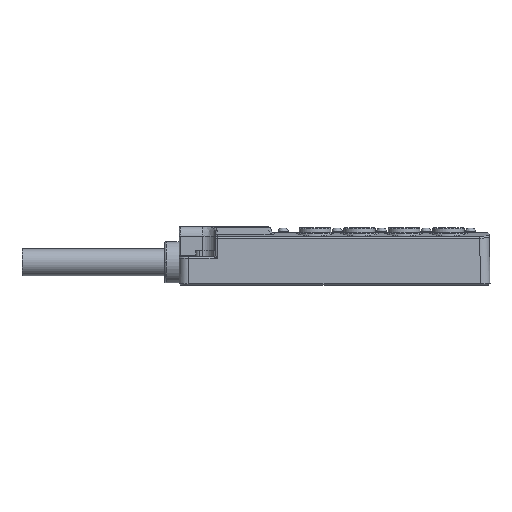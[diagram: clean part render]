
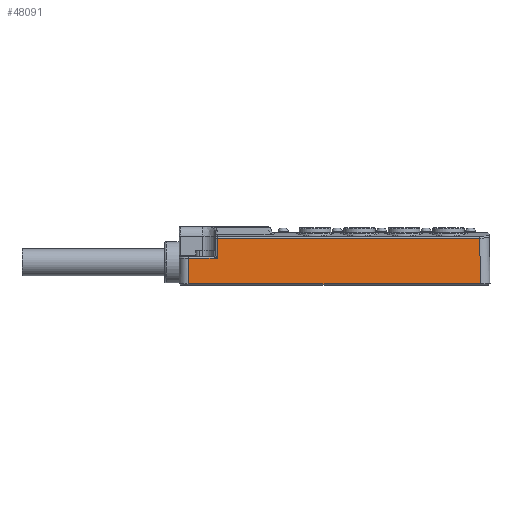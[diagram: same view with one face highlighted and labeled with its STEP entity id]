
A CAD part, front view. The second image highlights one B-rep face of the part: STEP entity #48091.
In plain terms, the highlighted planar face has unit normal (0, -1, 0.018).
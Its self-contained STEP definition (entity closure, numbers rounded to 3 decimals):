
#511 = CARTESIAN_POINT ( 'NONE',  ( 31.662, -22.741, 0.509 ) ) ;
#1249 = VERTEX_POINT ( 'NONE', #54063 ) ;
#8963 = VECTOR ( 'NONE', #58010, 1000. ) ;
#10957 = ORIENTED_EDGE ( 'NONE', *, *, #51203, .T. ) ;
#11367 = EDGE_CURVE ( 'NONE', #31458, #71711, #63896, .T. ) ;
#16513 = DIRECTION ( 'NONE',  ( 0., -1., 0.017 ) ) ;
#17008 = VERTEX_POINT ( 'NONE', #85932 ) ;
#19689 = ORIENTED_EDGE ( 'NONE', *, *, #38751, .T. ) ;
#21251 = AXIS2_PLACEMENT_3D ( 'NONE', #56751, #16513, #57034 ) ;
#21932 = LINE ( 'NONE', #48943, #30306 ) ;
#22470 = DIRECTION ( 'NONE',  ( 0., -0.017, -1. ) ) ;
#26380 = DIRECTION ( 'NONE',  ( 0., -0.017, -1. ) ) ;
#27033 = LINE ( 'NONE', #41044, #42783 ) ;
#28327 = VERTEX_POINT ( 'NONE', #68914 ) ;
#29554 = VECTOR ( 'NONE', #61624, 1000. ) ;
#30306 = VECTOR ( 'NONE', #62405, 1000. ) ;
#31056 = ORIENTED_EDGE ( 'NONE', *, *, #43642, .T. ) ;
#31458 = VERTEX_POINT ( 'NONE', #45964 ) ;
#32599 = CARTESIAN_POINT ( 'NONE',  ( -51.33, -22.49, 14.867 ) ) ;
#35928 = LINE ( 'NONE', #62678, #44356 ) ;
#37159 = ORIENTED_EDGE ( 'NONE', *, *, #76483, .T. ) ;
#38751 = EDGE_CURVE ( 'NONE', #1249, #28327, #44739, .T. ) ;
#41044 = CARTESIAN_POINT ( 'NONE',  ( -60.33, -22.616, 7.688 ) ) ;
#42783 = VECTOR ( 'NONE', #26380, 1000. ) ;
#43642 = EDGE_CURVE ( 'NONE', #17008, #31458, #84182, .T. ) ;
#44356 = VECTOR ( 'NONE', #22470, 1000. ) ;
#44739 = LINE ( 'NONE', #64162, #8963 ) ;
#45964 = CARTESIAN_POINT ( 'NONE',  ( 31.411, -22.49, 14.867 ) ) ;
#46890 = EDGE_CURVE ( 'NONE', #72048, #17008, #21932, .T. ) ;
#48059 = EDGE_LOOP ( 'NONE', ( #76048, #31056, #51701, #10957, #19689, #37159 ) ) ;
#48091 = ADVANCED_FACE ( 'NONE', ( #63525 ), #76192, .T. ) ;
#48943 = CARTESIAN_POINT ( 'NONE',  ( -14.334, -22.741, 0.509 ) ) ;
#51203 = EDGE_CURVE ( 'NONE', #71711, #1249, #35928, .T. ) ;
#51701 = ORIENTED_EDGE ( 'NONE', *, *, #11367, .T. ) ;
#52405 = CARTESIAN_POINT ( 'NONE',  ( -9.959, -22.49, 14.867 ) ) ;
#54063 = CARTESIAN_POINT ( 'NONE',  ( -51.33, -22.601, 8.509 ) ) ;
#56751 = CARTESIAN_POINT ( 'NONE',  ( 31.662, -22.49, 14.867 ) ) ;
#57034 = DIRECTION ( 'NONE',  ( -1., 0., 0. ) ) ;
#58010 = DIRECTION ( 'NONE',  ( -1., 0., 0. ) ) ;
#61624 = DIRECTION ( 'NONE',  ( -0.017, 0.017, 1. ) ) ;
#61843 = VECTOR ( 'NONE', #85856, 1000. ) ;
#62405 = DIRECTION ( 'NONE',  ( 1., 0., 0. ) ) ;
#62678 = CARTESIAN_POINT ( 'NONE',  ( -51.33, -22.616, 7.688 ) ) ;
#63525 = FACE_OUTER_BOUND ( 'NONE', #48059, .T. ) ;
#63896 = LINE ( 'NONE', #52405, #61843 ) ;
#64162 = CARTESIAN_POINT ( 'NONE',  ( -14.334, -22.601, 8.509 ) ) ;
#68914 = CARTESIAN_POINT ( 'NONE',  ( -60.33, -22.601, 8.509 ) ) ;
#71467 = CARTESIAN_POINT ( 'NONE',  ( -60.33, -22.741, 0.509 ) ) ;
#71711 = VERTEX_POINT ( 'NONE', #32599 ) ;
#72048 = VERTEX_POINT ( 'NONE', #71467 ) ;
#76048 = ORIENTED_EDGE ( 'NONE', *, *, #46890, .T. ) ;
#76192 = PLANE ( 'NONE',  #21251 ) ;
#76483 = EDGE_CURVE ( 'NONE', #28327, #72048, #27033, .T. ) ;
#84182 = LINE ( 'NONE', #511, #29554 ) ;
#85856 = DIRECTION ( 'NONE',  ( -1., 0., 0. ) ) ;
#85932 = CARTESIAN_POINT ( 'NONE',  ( 31.662, -22.741, 0.509 ) ) ;
